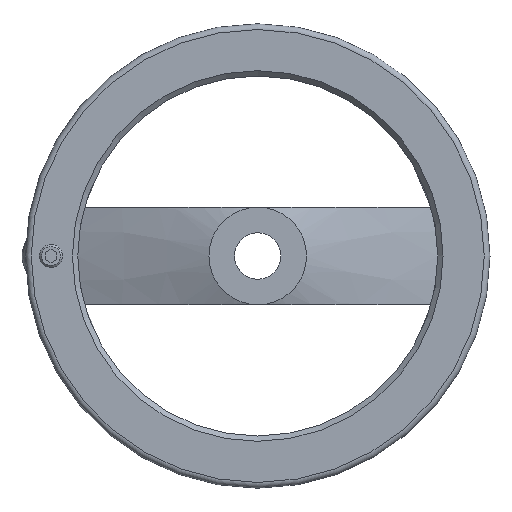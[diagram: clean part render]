
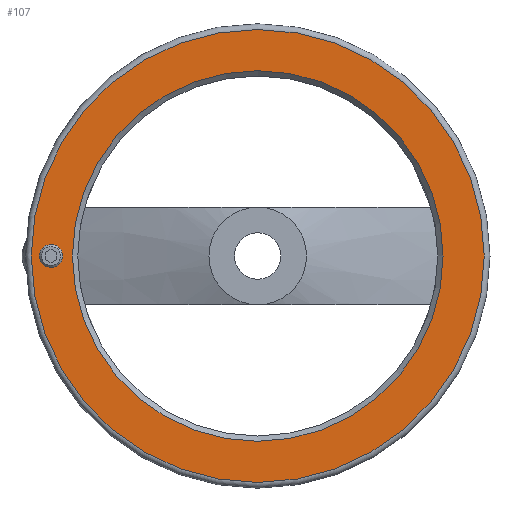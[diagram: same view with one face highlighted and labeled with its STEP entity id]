
A CAD part, left-side view. The second image highlights one B-rep face of the part: STEP entity #107.
In plain terms, the highlighted planar face has unit normal (-1, 0, 0).
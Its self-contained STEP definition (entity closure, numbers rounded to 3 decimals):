
#107 = ADVANCED_FACE( '', ( #200, #201, #202 ), #203, .T. );
#200 = FACE_OUTER_BOUND( '', #337, .T. );
#201 = FACE_BOUND( '', #338, .T. );
#202 = FACE_BOUND( '', #339, .T. );
#203 = PLANE( '', #340 );
#337 = EDGE_LOOP( '', ( #556 ) );
#338 = EDGE_LOOP( '', ( #557 ) );
#339 = EDGE_LOOP( '', ( #558 ) );
#340 = AXIS2_PLACEMENT_3D( '', #559, #560, #561 );
#556 = ORIENTED_EDGE( '', *, *, #659, .T. );
#557 = ORIENTED_EDGE( '', *, *, #626, .T. );
#558 = ORIENTED_EDGE( '', *, *, #660, .F. );
#559 = CARTESIAN_POINT( '', ( 24.5, -79.778, 0. ) );
#560 = DIRECTION( '', ( -1., 0., 0. ) );
#561 = DIRECTION( '', ( 0., 0., 1. ) );
#626 = EDGE_CURVE( '', #730, #730, #731, .T. );
#659 = EDGE_CURVE( '', #783, #783, #784, .T. );
#660 = EDGE_CURVE( '', #785, #785, #786, .T. );
#730 = VERTEX_POINT( '', #1002 );
#731 = CIRCLE( '', #1003, 5. );
#783 = VERTEX_POINT( '', #1067 );
#784 = CIRCLE( '', #1068, 97.5 );
#785 = VERTEX_POINT( '', #1069 );
#786 = CIRCLE( '', #1070, 79.778 );
#1002 = CARTESIAN_POINT( '', ( 24.5, 89., -5. ) );
#1003 = AXIS2_PLACEMENT_3D( '', #1113, #1114, #1115 );
#1067 = CARTESIAN_POINT( '', ( 24.5, 0., 97.5 ) );
#1068 = AXIS2_PLACEMENT_3D( '', #1185, #1186, #1187 );
#1069 = CARTESIAN_POINT( '', ( 24.5, 0., 79.778 ) );
#1070 = AXIS2_PLACEMENT_3D( '', #1188, #1189, #1190 );
#1113 = CARTESIAN_POINT( '', ( 24.5, 89., 0. ) );
#1114 = DIRECTION( '', ( 1., 0., 0. ) );
#1115 = DIRECTION( '', ( 0., 0., -1. ) );
#1185 = CARTESIAN_POINT( '', ( 24.5, 0., 0. ) );
#1186 = DIRECTION( '', ( -1., 0., 0. ) );
#1187 = DIRECTION( '', ( 0., 0., 1. ) );
#1188 = CARTESIAN_POINT( '', ( 24.5, 0., 0. ) );
#1189 = DIRECTION( '', ( -1., 0., 0. ) );
#1190 = DIRECTION( '', ( 0., 0., 1. ) );
